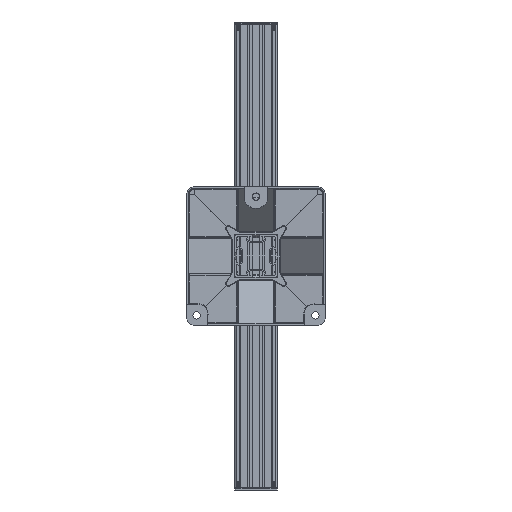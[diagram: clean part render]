
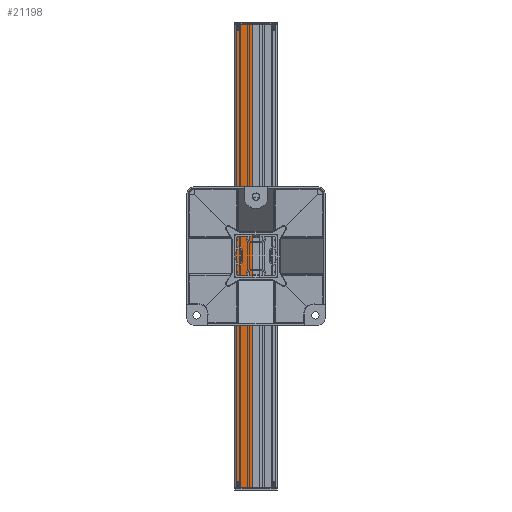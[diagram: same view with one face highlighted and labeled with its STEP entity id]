
A CAD part, front view. The second image highlights one B-rep face of the part: STEP entity #21198.
In plain terms, the highlighted planar face has unit normal (0, -1, 0).
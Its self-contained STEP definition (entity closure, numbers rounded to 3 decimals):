
#19854 = VERTEX_POINT ( 'NONE', #27086 ) ;
#19867 = EDGE_CURVE ( 'NONE', #19892, #19854, #26792, .T. ) ;
#19892 = VERTEX_POINT ( 'NONE', #27121 ) ;
#20622 = VERTEX_POINT ( 'NONE', #28342 ) ;
#20624 = VERTEX_POINT ( 'NONE', #28330 ) ;
#20630 = EDGE_CURVE ( 'NONE', #20622, #20624, #28312, .T. ) ;
#21145 = EDGE_LOOP ( 'NONE', ( #21199, #21197, #21201, #21200 ) ) ;
#21196 = EDGE_CURVE ( 'NONE', #19854, #20624, #29506, .T. ) ;
#21197 = ORIENTED_EDGE ( 'NONE', *, *, #21196, .F. ) ;
#21198 = ADVANCED_FACE ( 'NONE', ( #30100 ), #30096, .F. ) ;
#21199 = ORIENTED_EDGE ( 'NONE', *, *, #20630, .T. ) ;
#21200 = ORIENTED_EDGE ( 'NONE', *, *, #21210, .T. ) ;
#21201 = ORIENTED_EDGE ( 'NONE', *, *, #19867, .F. ) ;
#21210 = EDGE_CURVE ( 'NONE', #19892, #20622, #30059, .T. ) ;
#26750 = VECTOR ( 'NONE', #26799, 1000. ) ;
#26791 = CARTESIAN_POINT ( 'NONE',  ( -29.5, -32., 350.5 ) ) ;
#26792 = LINE ( 'NONE', #26791, #26750 ) ;
#26799 = DIRECTION ( 'NONE',  ( 1., 0., 0. ) ) ;
#27086 = CARTESIAN_POINT ( 'NONE',  ( -6., -32., 350.5 ) ) ;
#27121 = CARTESIAN_POINT ( 'NONE',  ( -29.5, -32., 350.5 ) ) ;
#28295 = DIRECTION ( 'NONE',  ( 1., 0., 0. ) ) ;
#28297 = VECTOR ( 'NONE', #28295, 1000. ) ;
#28298 = CARTESIAN_POINT ( 'NONE',  ( -29.5, -32., -350.5 ) ) ;
#28312 = LINE ( 'NONE', #28298, #28297 ) ;
#28330 = CARTESIAN_POINT ( 'NONE',  ( -6., -32., -350.5 ) ) ;
#28342 = CARTESIAN_POINT ( 'NONE',  ( -29.5, -32., -350.5 ) ) ;
#29488 = DIRECTION ( 'NONE',  ( 0., 0., -1. ) ) ;
#29489 = VECTOR ( 'NONE', #29488, 1000. ) ;
#29505 = CARTESIAN_POINT ( 'NONE',  ( -6., -32., 350.5 ) ) ;
#29506 = LINE ( 'NONE', #29505, #29489 ) ;
#30050 = CARTESIAN_POINT ( 'NONE',  ( -29.5, -32., 350.5 ) ) ;
#30059 = LINE ( 'NONE', #30050, #30150 ) ;
#30083 = DIRECTION ( 'NONE',  ( 0., 0., -1. ) ) ;
#30085 = DIRECTION ( 'NONE',  ( 0., 0., 1. ) ) ;
#30086 = DIRECTION ( 'NONE',  ( 0., 1., 0. ) ) ;
#30088 = CARTESIAN_POINT ( 'NONE',  ( -29.5, -32., 350.5 ) ) ;
#30089 = AXIS2_PLACEMENT_3D ( 'NONE', #30088, #30086, #30085 ) ;
#30096 = PLANE ( 'NONE',  #30089 ) ;
#30100 = FACE_OUTER_BOUND ( 'NONE', #21145, .T. ) ;
#30150 = VECTOR ( 'NONE', #30083, 1000. ) ;
